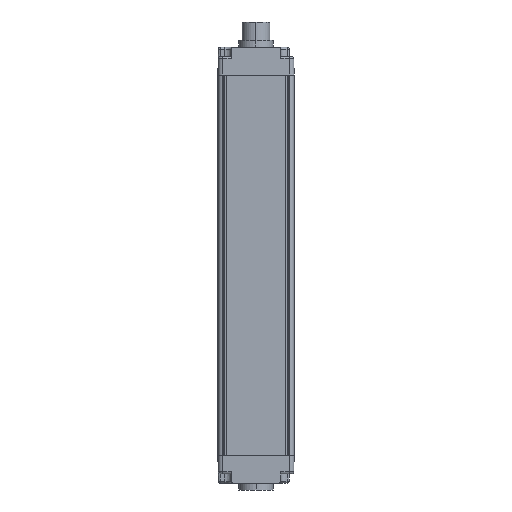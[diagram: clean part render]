
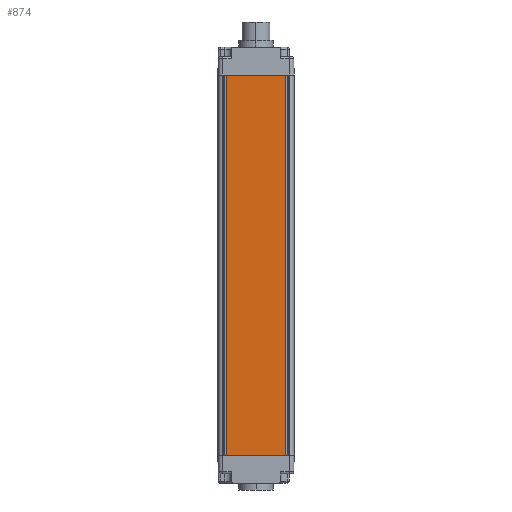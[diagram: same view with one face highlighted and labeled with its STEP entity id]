
A CAD part, left-side view. The second image highlights one B-rep face of the part: STEP entity #874.
In plain terms, the highlighted planar face has unit normal (-1, 0, 0).
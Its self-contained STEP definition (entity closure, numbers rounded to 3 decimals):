
#874=ADVANCED_FACE('',(#1849),#1442,.T.);
#1442=PLANE('',#12951);
#1849=FACE_OUTER_BOUND('',#2458,.T.);
#2458=EDGE_LOOP('',(#6196,#6197,#6198,#6199));
#3058=LINE('',#17687,#4226);
#3088=LINE('',#17781,#4256);
#3276=LINE('',#18324,#4444);
#3277=LINE('',#18326,#4445);
#4226=VECTOR('',#14065,1.);
#4256=VECTOR('',#14141,1.);
#4444=VECTOR('',#14713,1.);
#4445=VECTOR('',#14716,1.);
#6196=ORIENTED_EDGE('',*,*,#10487,.F.);
#6197=ORIENTED_EDGE('',*,*,#10795,.T.);
#6198=ORIENTED_EDGE('',*,*,#10534,.T.);
#6199=ORIENTED_EDGE('',*,*,#10796,.T.);
#9231=VERTEX_POINT('',#17686);
#9232=VERTEX_POINT('',#17688);
#9272=VERTEX_POINT('',#17780);
#9273=VERTEX_POINT('',#17782);
#10487=EDGE_CURVE('',#9231,#9232,#3058,.T.);
#10534=EDGE_CURVE('',#9273,#9272,#3088,.T.);
#10795=EDGE_CURVE('',#9231,#9273,#3276,.T.);
#10796=EDGE_CURVE('',#9272,#9232,#3277,.T.);
#12951=AXIS2_PLACEMENT_3D('',#18327,#14717,#14718);
#14065=DIRECTION('',(0.,1.,0.));
#14141=DIRECTION('',(0.,1.,0.));
#14713=DIRECTION('',(0.,0.,1.));
#14716=DIRECTION('',(0.,0.,-1.));
#14717=DIRECTION('',(-1.,0.,0.));
#14718=DIRECTION('',(0.,1.,0.));
#17686=CARTESIAN_POINT('',(-15.9,-12.8,0.));
#17687=CARTESIAN_POINT('',(-15.9,-12.8,0.));
#17688=CARTESIAN_POINT('',(-15.9,12.8,0.));
#17780=CARTESIAN_POINT('',(-15.9,12.8,165.));
#17781=CARTESIAN_POINT('',(-15.9,16.5,165.));
#17782=CARTESIAN_POINT('',(-15.9,-12.8,165.));
#18324=CARTESIAN_POINT('',(-15.9,-12.8,0.));
#18326=CARTESIAN_POINT('',(-15.9,12.8,100.));
#18327=CARTESIAN_POINT('',(-15.9,16.5,0.));
